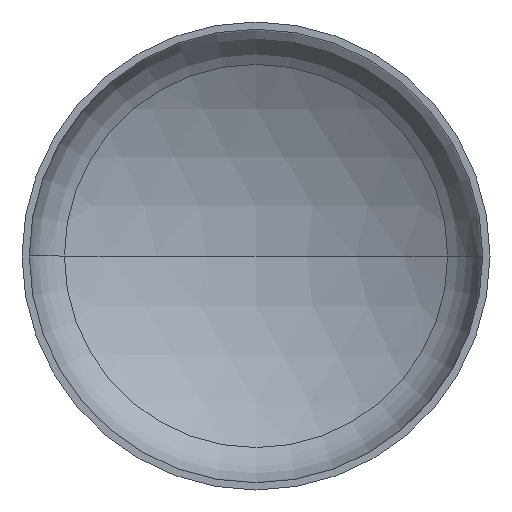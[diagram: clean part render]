
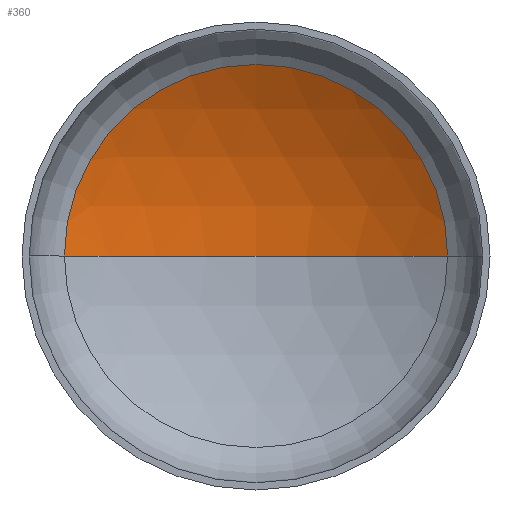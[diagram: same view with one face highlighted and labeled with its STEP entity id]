
A CAD part, front view. The second image highlights one B-rep face of the part: STEP entity #360.
In plain terms, the highlighted spherical face has radius 3200 mm.
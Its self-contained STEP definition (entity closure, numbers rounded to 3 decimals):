
#2 = EDGE_LOOP ( 'NONE', ( #174, #400, #170 ) ) ;
#4 = AXIS2_PLACEMENT_3D ( 'NONE', #95, #210, #77 ) ;
#7 = CARTESIAN_POINT ( 'NONE',  ( 1637.756, 648.35, 0. ) ) ;
#8 = AXIS2_PLACEMENT_3D ( 'NONE', #48, #90, #100 ) ;
#9 = AXIS2_PLACEMENT_3D ( 'NONE', #280, #179, #403 ) ;
#14 = AXIS2_PLACEMENT_3D ( 'NONE', #138, #335, #175 ) ;
#36 = CARTESIAN_POINT ( 'NONE',  ( -1637.756, 648.35, 0. ) ) ;
#48 = CARTESIAN_POINT ( 'NONE',  ( 0., -2100.787, 0. ) ) ;
#77 = DIRECTION ( 'NONE',  ( -1., 0., 0. ) ) ;
#90 = DIRECTION ( 'NONE',  ( 0., 0., -1. ) ) ;
#95 = CARTESIAN_POINT ( 'NONE',  ( 0., -2100.787, 0. ) ) ;
#100 = DIRECTION ( 'NONE',  ( -1., 0., 0. ) ) ;
#135 = VERTEX_POINT ( 'NONE', #7 ) ;
#138 = CARTESIAN_POINT ( 'NONE',  ( 0., -2100.787, 0. ) ) ;
#153 = VERTEX_POINT ( 'NONE', #401 ) ;
#159 = VERTEX_POINT ( 'NONE', #36 ) ;
#170 = ORIENTED_EDGE ( 'NONE', *, *, #353, .T. ) ;
#174 = ORIENTED_EDGE ( 'NONE', *, *, #340, .F. ) ;
#175 = DIRECTION ( 'NONE',  ( 1., 0., 0. ) ) ;
#179 = DIRECTION ( 'NONE',  ( 0., -1., 0. ) ) ;
#199 = FACE_OUTER_BOUND ( 'NONE', #2, .T. ) ;
#210 = DIRECTION ( 'NONE',  ( 0., 0., -1. ) ) ;
#265 = SPHERICAL_SURFACE ( 'NONE', #4, 3200. ) ;
#270 = CIRCLE ( 'NONE', #14, 3200. ) ;
#280 = CARTESIAN_POINT ( 'NONE',  ( 0., 648.35, 0. ) ) ;
#332 = CIRCLE ( 'NONE', #9, 1637.756 ) ;
#335 = DIRECTION ( 'NONE',  ( 0., 0., 1. ) ) ;
#340 = EDGE_CURVE ( 'NONE', #153, #159, #270, .T. ) ;
#353 = EDGE_CURVE ( 'NONE', #135, #159, #332, .T. ) ;
#358 = EDGE_CURVE ( 'NONE', #153, #135, #396, .T. ) ;
#360 = ADVANCED_FACE ( 'NONE', ( #199 ), #265, .F. ) ;
#396 = CIRCLE ( 'NONE', #8, 3200. ) ;
#400 = ORIENTED_EDGE ( 'NONE', *, *, #358, .T. ) ;
#401 = CARTESIAN_POINT ( 'NONE',  ( 0., 1099.213, 0. ) ) ;
#403 = DIRECTION ( 'NONE',  ( 1., 0., 0. ) ) ;
